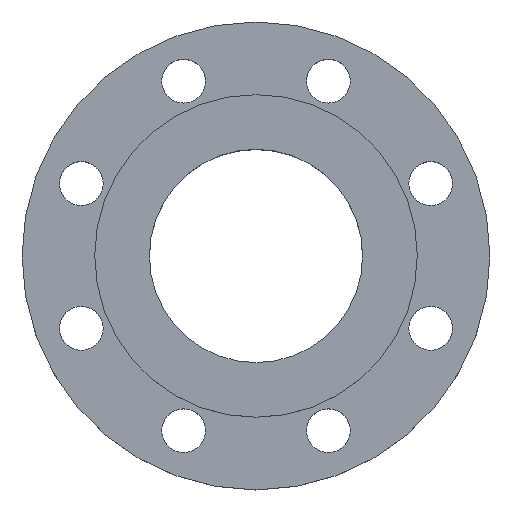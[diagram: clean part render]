
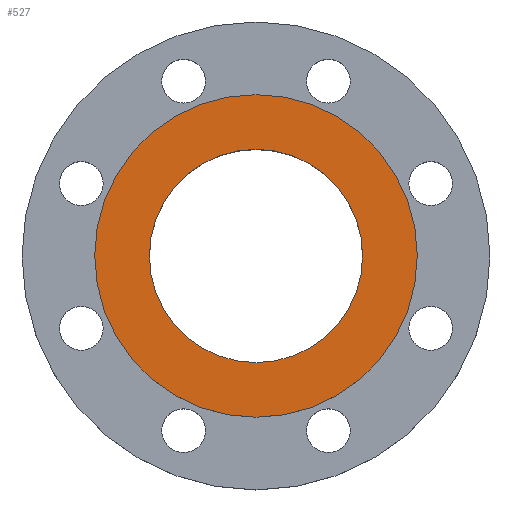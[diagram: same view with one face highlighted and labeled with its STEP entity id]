
A CAD part, top view. The second image highlights one B-rep face of the part: STEP entity #527.
In plain terms, the highlighted planar face has unit normal (0, 0, 1).
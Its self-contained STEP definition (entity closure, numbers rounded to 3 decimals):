
#96 = DIRECTION ( 'NONE',  ( 1., 0., 0. ) ) ;
#97 = DIRECTION ( 'NONE',  ( 0., 0., 1. ) ) ;
#101 = CARTESIAN_POINT ( 'NONE',  ( 81., 0., 3.6 ) ) ;
#103 = PLANE ( 'NONE',  #363 ) ;
#105 = FACE_BOUND ( 'NONE', #742, .T. ) ;
#106 = FACE_OUTER_BOUND ( 'NONE', #1154, .T. ) ;
#226 = CARTESIAN_POINT ( 'NONE',  ( 0., 0., 3.6 ) ) ;
#256 = CARTESIAN_POINT ( 'NONE',  ( 81., 0., 3.6 ) ) ;
#283 = DIRECTION ( 'NONE',  ( 1., 0., 0. ) ) ;
#284 = AXIS2_PLACEMENT_3D ( 'NONE', #351, #943, #283 ) ;
#324 = CARTESIAN_POINT ( 'NONE',  ( 0., 0., 3.6 ) ) ;
#332 = EDGE_CURVE ( 'NONE', #683, #754, #413, .T. ) ;
#334 = EDGE_CURVE ( 'NONE', #682, #430, #716, .T. ) ;
#351 = CARTESIAN_POINT ( 'NONE',  ( 0., 0., 3.6 ) ) ;
#363 = AXIS2_PLACEMENT_3D ( 'NONE', #101, #97, #96 ) ;
#368 = DIRECTION ( 'NONE',  ( 0., 0., 1. ) ) ;
#381 = CARTESIAN_POINT ( 'NONE',  ( 53.55, 0., 3.6 ) ) ;
#395 = CIRCLE ( 'NONE', #426, 81. ) ;
#413 = CIRCLE ( 'NONE', #284, 53.55 ) ;
#426 = AXIS2_PLACEMENT_3D ( 'NONE', #962, #368, #612 ) ;
#430 = VERTEX_POINT ( 'NONE', #256 ) ;
#464 = CIRCLE ( 'NONE', #596, 53.55 ) ;
#527 = ADVANCED_FACE ( 'NONE', ( #106, #105 ), #103, .T. ) ;
#551 = DIRECTION ( 'NONE',  ( 0., 0., 1. ) ) ;
#596 = AXIS2_PLACEMENT_3D ( 'NONE', #226, #551, #841 ) ;
#612 = DIRECTION ( 'NONE',  ( 1., 0., 0. ) ) ;
#626 = EDGE_CURVE ( 'NONE', #430, #682, #395, .T. ) ;
#637 = ORIENTED_EDGE ( 'NONE', *, *, #626, .T. ) ;
#638 = ORIENTED_EDGE ( 'NONE', *, *, #334, .T. ) ;
#641 = ORIENTED_EDGE ( 'NONE', *, *, #332, .F. ) ;
#644 = ORIENTED_EDGE ( 'NONE', *, *, #996, .F. ) ;
#682 = VERTEX_POINT ( 'NONE', #983 ) ;
#683 = VERTEX_POINT ( 'NONE', #381 ) ;
#716 = CIRCLE ( 'NONE', #861, 81. ) ;
#742 = EDGE_LOOP ( 'NONE', ( #641, #644 ) ) ;
#754 = VERTEX_POINT ( 'NONE', #1003 ) ;
#841 = DIRECTION ( 'NONE',  ( 1., 0., 0. ) ) ;
#861 = AXIS2_PLACEMENT_3D ( 'NONE', #324, #904, #915 ) ;
#904 = DIRECTION ( 'NONE',  ( 0., 0., 1. ) ) ;
#915 = DIRECTION ( 'NONE',  ( 1., 0., 0. ) ) ;
#943 = DIRECTION ( 'NONE',  ( 0., 0., 1. ) ) ;
#962 = CARTESIAN_POINT ( 'NONE',  ( 0., 0., 3.6 ) ) ;
#983 = CARTESIAN_POINT ( 'NONE',  ( -81., 0., 3.6 ) ) ;
#996 = EDGE_CURVE ( 'NONE', #754, #683, #464, .T. ) ;
#1003 = CARTESIAN_POINT ( 'NONE',  ( -53.55, 0., 3.6 ) ) ;
#1154 = EDGE_LOOP ( 'NONE', ( #637, #638 ) ) ;
